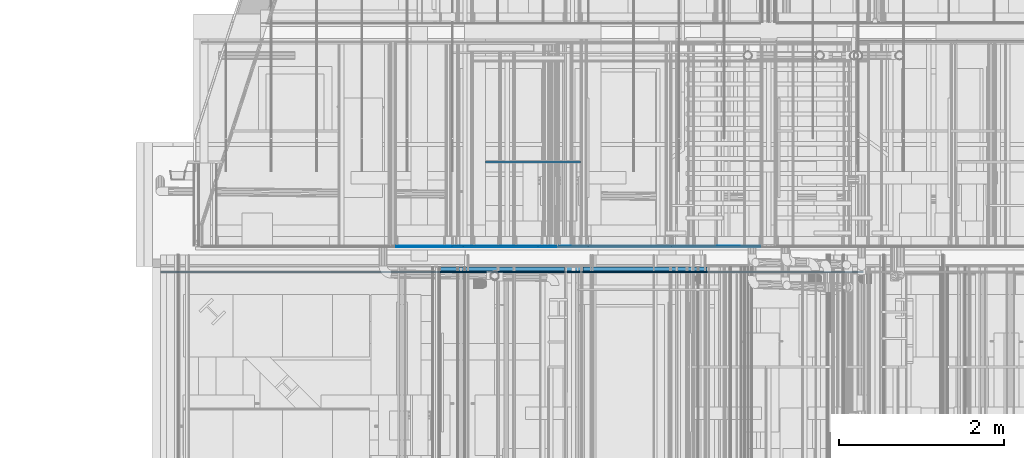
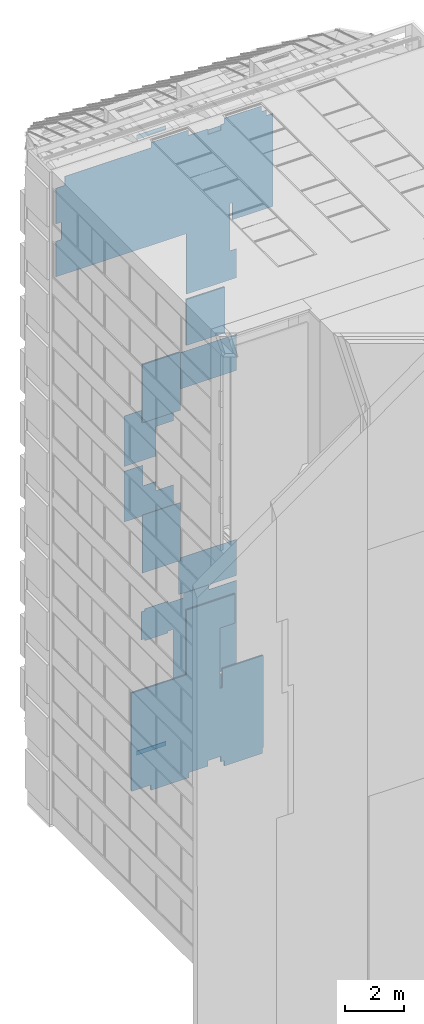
# One storey, part 264 of 583: 20 slabs.
"""IFC2X3 building model written with IfcOpenShell, lengths in metres."""

from ifc_helpers import new_model, entity, si_unit, converted_unit, derived_unit, money_unit, direction, frame, origin_with_axes, place, context, subcontext, project, spatial, faceted_brep, material, type_object, element, save


model = new_model("IFC2X3")

# Units and contexts
model_context = context("Model", 3, precision=1e-05, world=origin_with_axes(), true_north=direction((0.0, 1.0)))
body_context = subcontext(model_context, "Body", "Model", "MODEL_VIEW", scale=1.0)
ifc_project = project(units=[si_unit("LENGTHUNIT", "METRE"), si_unit("AREAUNIT", "SQUARE_METRE"), si_unit("VOLUMEUNIT", "CUBIC_METRE"), si_unit("ABSORBEDDOSEUNIT", "GRAY"), si_unit("AMOUNTOFSUBSTANCEUNIT", "MOLE"), si_unit("DOSEEQUIVALENTUNIT", "SIEVERT"), si_unit("ELECTRICCAPACITANCEUNIT", "FARAD"), si_unit("ELECTRICCHARGEUNIT", "COULOMB"), si_unit("ELECTRICCONDUCTANCEUNIT", "SIEMENS"), si_unit("ELECTRICCURRENTUNIT", "AMPERE"), si_unit("ELECTRICRESISTANCEUNIT", "OHM"), si_unit("ELECTRICVOLTAGEUNIT", "VOLT"), si_unit("ENERGYUNIT", "JOULE"), si_unit("FORCEUNIT", "NEWTON"), si_unit("FREQUENCYUNIT", "HERTZ"), si_unit("ILLUMINANCEUNIT", "LUX"), si_unit("INDUCTANCEUNIT", "HENRY"), si_unit("LUMINOUSFLUXUNIT", "LUMEN"), si_unit("LUMINOUSINTENSITYUNIT", "CANDELA"), si_unit("MAGNETICFLUXDENSITYUNIT", "TESLA"), si_unit("MAGNETICFLUXUNIT", "WEBER"), si_unit("MASSUNIT", "GRAM"), converted_unit("PLANEANGLEUNIT", "degree", entity("IfcReal", 0.0174532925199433), si_unit("PLANEANGLEUNIT", "RADIAN"), dimensions=[0, 0, 0, 0, 0, 0, 0]), si_unit("POWERUNIT", "WATT"), si_unit("PRESSUREUNIT", "PASCAL"), si_unit("RADIOACTIVITYUNIT", "BECQUEREL"), si_unit("SOLIDANGLEUNIT", "STERADIAN"), si_unit("THERMODYNAMICTEMPERATUREUNIT", "KELVIN"), si_unit("TIMEUNIT", "SECOND"), derived_unit("ACCELERATIONUNIT", [(si_unit("LENGTHUNIT", "METRE"), 1), (si_unit("TIMEUNIT", "SECOND"), -2)]), derived_unit("ANGULARVELOCITYUNIT", [(converted_unit("PLANEANGLEUNIT", "degree", entity("IfcReal", 0.0174532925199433), si_unit("PLANEANGLEUNIT", "RADIAN"), dimensions=[0, 0, 0, 0, 0, 0, 0]), 1), (si_unit("TIMEUNIT", "SECOND"), -1)]), derived_unit("CURVATUREUNIT", [(converted_unit("PLANEANGLEUNIT", "degree", entity("IfcReal", 0.0174532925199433), si_unit("PLANEANGLEUNIT", "RADIAN"), dimensions=[0, 0, 0, 0, 0, 0, 0]), 1), (si_unit("LENGTHUNIT", "METRE"), -1)]), derived_unit("DYNAMICVISCOSITYUNIT", [(si_unit("PRESSUREUNIT", "PASCAL"), 1), (si_unit("TIMEUNIT", "SECOND"), 1)]), derived_unit("HEATFLUXDENSITYUNIT", [(si_unit("POWERUNIT", "WATT"), 1), (si_unit("LENGTHUNIT", "METRE"), -2)]), derived_unit("HEATINGVALUEUNIT", [(si_unit("ENERGYUNIT", "JOULE"), 1), (si_unit("MASSUNIT", "GRAM"), -1)]), derived_unit("INTEGERCOUNTRATEUNIT", [(si_unit("TIMEUNIT", "SECOND"), -1)]), derived_unit("IONCONCENTRATIONUNIT", [(si_unit("MASSUNIT", "GRAM"), 1), (si_unit("VOLUMEUNIT", "CUBIC_METRE"), -1)]), derived_unit("ISOTHERMALMOISTURECAPACITYUNIT", [(si_unit("VOLUMEUNIT", "CUBIC_METRE"), 1), (si_unit("MASSUNIT", "GRAM"), -1)]), derived_unit("KINEMATICVISCOSITYUNIT", [(si_unit("AREAUNIT", "SQUARE_METRE"), 1), (si_unit("TIMEUNIT", "SECOND"), -1)]), derived_unit("LINEARFORCEUNIT", [(si_unit("FORCEUNIT", "NEWTON"), 1), (si_unit("LENGTHUNIT", "METRE"), -1)]), derived_unit("LINEARMOMENTUNIT", [(si_unit("FORCEUNIT", "NEWTON"), 1), (si_unit("LENGTHUNIT", "METRE"), -1)]), derived_unit("LINEARSTIFFNESSUNIT", [(si_unit("FORCEUNIT", "NEWTON"), 1), (si_unit("LENGTHUNIT", "METRE"), -1)]), derived_unit("LINEARVELOCITYUNIT", [(si_unit("LENGTHUNIT", "METRE"), 1), (si_unit("TIMEUNIT", "SECOND"), -1)]), derived_unit("LUMINOUSINTENSITYDISTRIBUTIONUNIT", [(si_unit("LUMINOUSINTENSITYUNIT", "CANDELA"), 1), (si_unit("LUMINOUSFLUXUNIT", "LUMEN"), -1)]), derived_unit("MASSDENSITYUNIT", [(si_unit("MASSUNIT", "GRAM"), 1), (si_unit("VOLUMEUNIT", "CUBIC_METRE"), -1)]), derived_unit("MASSFLOWRATEUNIT", [(si_unit("MASSUNIT", "GRAM"), 1), (si_unit("TIMEUNIT", "SECOND"), -1)]), derived_unit("MASSPERLENGTHUNIT", [(si_unit("MASSUNIT", "GRAM"), 1), (si_unit("LENGTHUNIT", "METRE"), -1)]), derived_unit("MODULUSOFELASTICITYUNIT", [(si_unit("FORCEUNIT", "NEWTON"), 1), (si_unit("AREAUNIT", "SQUARE_METRE"), -1)]), derived_unit("MODULUSOFLINEARSUBGRADEREACTIONUNIT", [(si_unit("FORCEUNIT", "NEWTON"), 1), (si_unit("LENGTHUNIT", "METRE"), -2)]), derived_unit("MODULUSOFROTATIONALSUBGRADEREACTIONUNIT", [(si_unit("FORCEUNIT", "NEWTON"), 1), (si_unit("LENGTHUNIT", "METRE"), 1)]), derived_unit("MODULUSOFSUBGRADEREACTIONUNIT", [(si_unit("FORCEUNIT", "NEWTON"), 1), (si_unit("VOLUMEUNIT", "CUBIC_METRE"), -1)]), derived_unit("MOISTUREDIFFUSIVITYUNIT", [(si_unit("VOLUMEUNIT", "CUBIC_METRE"), 1), (si_unit("TIMEUNIT", "SECOND"), -1)]), derived_unit("MOLECULARWEIGHTUNIT", [(si_unit("MASSUNIT", "GRAM"), 1), (si_unit("AMOUNTOFSUBSTANCEUNIT", "MOLE"), -1)]), derived_unit("PLANARFORCEUNIT", [(si_unit("FORCEUNIT", "NEWTON"), 1), (si_unit("LENGTHUNIT", "METRE"), -2)]), derived_unit("ROTATIONALFREQUENCYUNIT", [(si_unit("TIMEUNIT", "SECOND"), -1)]), derived_unit("ROTATIONALMASSUNIT", [(si_unit("MASSUNIT", "GRAM"), 1), (si_unit("LENGTHUNIT", "METRE"), 2)]), derived_unit("ROTATIONALSTIFFNESSUNIT", [(si_unit("FORCEUNIT", "NEWTON"), 1), (si_unit("LENGTHUNIT", "METRE"), 1), (converted_unit("PLANEANGLEUNIT", "degree", entity("IfcReal", 0.0174532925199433), si_unit("PLANEANGLEUNIT", "RADIAN"), dimensions=[0, 0, 0, 0, 0, 0, 0]), -1)]), derived_unit("SECTIONAREAINTEGRALUNIT", [(si_unit("LENGTHUNIT", "METRE"), 5)]), derived_unit("SECTIONMODULUSUNIT", [(si_unit("LENGTHUNIT", "METRE"), 3)]), derived_unit("SHEARMODULUSUNIT", [(si_unit("FORCEUNIT", "NEWTON"), 1), (si_unit("AREAUNIT", "SQUARE_METRE"), -1)]), derived_unit("SOUNDPOWERUNIT", [(si_unit("ENERGYUNIT", "JOULE"), 1), (si_unit("TIMEUNIT", "SECOND"), -1)]), derived_unit("SPECIFICHEATCAPACITYUNIT", [(si_unit("FORCEUNIT", "NEWTON"), 1), (si_unit("MASSUNIT", "GRAM"), -1), (si_unit("THERMODYNAMICTEMPERATUREUNIT", "KELVIN"), -1)]), derived_unit("TEMPERATUREGRADIENTUNIT", [(si_unit("THERMODYNAMICTEMPERATUREUNIT", "KELVIN"), 1), (si_unit("LENGTHUNIT", "METRE"), -1)]), derived_unit("THERMALADMITTANCEUNIT", [(si_unit("POWERUNIT", "WATT"), 1), (si_unit("AREAUNIT", "SQUARE_METRE"), -1), (si_unit("THERMODYNAMICTEMPERATUREUNIT", "KELVIN"), -1)]), derived_unit("THERMALCONDUCTANCEUNIT", [(si_unit("POWERUNIT", "WATT"), 1), (si_unit("LENGTHUNIT", "METRE"), -1), (si_unit("THERMODYNAMICTEMPERATUREUNIT", "KELVIN"), -1)]), derived_unit("THERMALEXPANSIONCOEFFICIENTUNIT", [(si_unit("THERMODYNAMICTEMPERATUREUNIT", "KELVIN"), -1)]), derived_unit("THERMALRESISTANCEUNIT", [(si_unit("AREAUNIT", "SQUARE_METRE"), 1), (si_unit("POWERUNIT", "WATT"), -1)]), derived_unit("THERMALTRANSMITTANCEUNIT", [(si_unit("POWERUNIT", "WATT"), 1), (si_unit("AREAUNIT", "SQUARE_METRE"), -1), (si_unit("THERMODYNAMICTEMPERATUREUNIT", "KELVIN"), -1)]), derived_unit("TORQUEUNIT", [(si_unit("FORCEUNIT", "NEWTON"), 1), (si_unit("LENGTHUNIT", "METRE"), 1)]), derived_unit("VAPORPERMEABILITYUNIT", [(si_unit("MASSUNIT", "GRAM"), 1), (si_unit("TIMEUNIT", "SECOND"), -1)]), derived_unit("VOLUMETRICFLOWRATEUNIT", [(si_unit("VOLUMEUNIT", "CUBIC_METRE"), 1), (si_unit("TIMEUNIT", "SECOND"), -1)]), derived_unit("WARPINGCONSTANTUNIT", [(si_unit("LENGTHUNIT", "METRE"), 6)]), derived_unit("WARPINGMOMENTUNIT", [(si_unit("FORCEUNIT", "NEWTON"), 1), (si_unit("LENGTHUNIT", "METRE"), 2)]), money_unit("GBP")], contexts=[model_context])

# Site, building, storey
site_placement = place(None, origin_with_axes())
site = spatial("IfcSite", under=ifc_project, at=site_placement, Name="Site", CompositionType="ELEMENT")
building_placement = place(site_placement, origin_with_axes())
building = spatial("IfcBuilding", under=site, at=building_placement, Name="Building01", CompositionType="ELEMENT")
storey_placement = place(building_placement, frame((0.0, 0.0, 20.78), z_axis=(0.0, 0.0, 1.0), x_axis=(1.0, 0.0, 0.0)))
storey = spatial("IfcBuildingStorey", under=building, at=storey_placement, Name="RL", CompositionType="ELEMENT", Elevation=20.78)

# Slabs
ifc_material_1 = material(Name="A_BSUK_CeilingSoffitFinishes_Suspended")
slab_type_1 = type_object("IfcSlabType", Name="A-FloorsSlabs A_BSUK_Slabs", PredefinedType="FLOOR")
placement = place(storey_placement, frame((0.0, 0.0, -20.78), z_axis=(0.0, 0.0, 1.0), x_axis=(1.0, 0.0, 0.0)))
element("IfcSlab", 1, at=placement, inside=storey, type_object=slab_type_1, material=ifc_material_1, Name="A-FloorsSlabs A_BSUK_Slabs", ObjectType="CompoundSlabLeaf", context=body_context, shape_type="Brep", body=[
    faceted_brep([(6.705, 14.658, 18.0), (6.705, 14.673, 18.0), (6.705, 14.673, 19.897661), (6.705, 14.658, 19.897661), (5.205, 14.658, 18.0), (5.205, 14.673, 18.0), (5.205, 14.658, 19.897661), (5.205, 14.673, 19.897661)], [[[0, 1, 2, 3]], [[4, 5, 1, 0]], [[6, 7, 5, 4]], [[3, 2, 7, 6]], [[1, 5, 7, 2]], [[3, 6, 4, 0]]]),
])
element("IfcSlab", 2, at=placement, inside=storey, type_object=slab_type_1, material=ifc_material_1, Name="A-FloorsSlabs A_BSUK_Slabs", ObjectType="CompoundSlabLeaf", context=body_context, shape_type="Brep", body=[
    faceted_brep([(4.98, 14.658, 9.192536), (4.98, 14.673, 9.192536), (4.98, 14.673, 11.592536), (4.98, 14.658, 11.592536), (3.48, 14.658, 9.192536), (3.48, 14.673, 9.192536), (3.48, 14.658, 11.592536), (3.48, 14.673, 11.592536), (4.259428, 14.658, 11.592536), (4.259428, 14.673, 11.592536)], [[[0, 1, 2, 3]], [[4, 5, 1, 0]], [[6, 7, 5, 4]], [[8, 9, 7, 6]], [[3, 2, 9, 8]], [[1, 5, 7, 9, 2]], [[3, 8, 6, 4, 0]]]),
])
element("IfcSlab", 3, at=placement, inside=storey, type_object=slab_type_1, material=ifc_material_1, Name="A-FloorsSlabs A_BSUK_Slabs", ObjectType="CompoundSlabLeaf", context=body_context, shape_type="Brep", body=[
    faceted_brep([(5.457147, 14.658, 20.122661), (5.457147, 14.673, 20.122661), (6.457147, 14.673, 20.122661), (6.457147, 14.658, 20.122661), (5.205, 14.658, 20.122661), (5.205, 14.673, 20.122661), (5.205, 14.658, 22.625), (5.205, 14.673, 22.625), (0.1, 14.658, 22.625), (0.1, 14.673, 22.625), (0.1, 14.658, 24.095), (0.1, 14.673, 24.095), (0.318, 14.658, 24.095), (0.318, 14.673, 24.095), (0.318, 14.658, 24.815), (0.318, 14.673, 24.815), (0.1, 14.658, 24.815), (0.1, 14.673, 24.815), (0.1, 14.658, 26.285), (0.1, 14.673, 26.285), (0.448, 14.658, 26.285), (0.448, 14.673, 26.285), (0.448, 14.658, 26.662), (0.448, 14.673, 26.662), (3.82218, 14.658, 26.662), (3.82218, 14.673, 26.662), (3.82218, 14.658, 26.88), (3.82218, 14.673, 26.88), (5.29218, 14.658, 26.88), (5.29218, 14.673, 26.88), (5.29218, 14.658, 26.662), (5.29218, 14.673, 26.662), (6.052, 14.658, 26.662), (6.052, 14.673, 26.662), (6.052, 14.658, 26.432), (6.052, 14.673, 26.432), (6.548, 14.658, 26.432), (6.548, 14.673, 26.432), (6.548, 14.658, 26.662), (6.548, 14.673, 26.662), (6.682326, 14.658, 26.662), (6.682326, 14.673, 26.662), (6.682326, 14.658, 26.88), (6.682326, 14.673, 26.88), (8.137326, 14.658, 26.88), (8.137326, 14.673, 26.88), (8.137326, 14.658, 26.646178), (8.137326, 14.673, 26.646178), (8.334548, 14.658, 26.646178), (8.334548, 14.673, 26.646178), (8.334548, 14.658, 26.417), (8.334548, 14.673, 26.417), (8.595, 14.658, 26.417), (8.595, 14.673, 26.417), (8.595, 14.658, 22.571661), (8.595, 14.673, 22.571661), (7.0, 14.658, 22.571661), (7.0, 14.673, 22.571661), (7.0, 14.658, 23.271529), (7.0, 14.673, 23.271529), (6.955, 14.658, 23.271529), (6.955, 14.673, 23.271529), (6.905, 14.658, 23.271529), (6.905, 14.673, 23.271529), (6.905, 14.658, 21.322661), (6.905, 14.673, 21.322661), (7.155, 14.658, 21.322661), (7.155, 14.673, 21.322661), (7.155, 14.658, 20.122661), (7.155, 14.673, 20.122661)], [[[0, 1, 2, 3]], [[4, 5, 1, 0]], [[6, 7, 5, 4]], [[8, 9, 7, 6]], [[10, 11, 9, 8]], [[12, 13, 11, 10]], [[14, 15, 13, 12]], [[16, 17, 15, 14]], [[18, 19, 17, 16]], [[20, 21, 19, 18]], [[22, 23, 21, 20]], [[24, 25, 23, 22]], [[26, 27, 25, 24]], [[28, 29, 27, 26]], [[30, 31, 29, 28]], [[32, 33, 31, 30]], [[34, 35, 33, 32]], [[36, 37, 35, 34]], [[38, 39, 37, 36]], [[40, 41, 39, 38]], [[42, 43, 41, 40]], [[44, 45, 43, 42]], [[46, 47, 45, 44]], [[48, 49, 47, 46]], [[50, 51, 49, 48]], [[52, 53, 51, 50]], [[54, 55, 53, 52]], [[56, 57, 55, 54]], [[58, 59, 57, 56]], [[60, 61, 59, 58]], [[62, 63, 61, 60]], [[64, 65, 63, 62]], [[66, 67, 65, 64]], [[68, 69, 67, 66]], [[3, 2, 69, 68]], [[1, 5, 7, 9, 11, 13, 15, 17, 19, 21, 23, 25, 27, 29, 31, 33, 35, 37, 39, 41, 43, 45, 47, 49, 51, 53, 55, 57, 59, 61, 63, 65, 67, 69, 2]], [[3, 68, 66, 64, 62, 60, 58, 56, 54, 52, 50, 48, 46, 44, 42, 40, 38, 36, 34, 32, 30, 28, 26, 24, 22, 20, 18, 16, 14, 12, 10, 8, 6, 4, 0]]]),
])
element("IfcSlab", 4, at=placement, inside=storey, type_object=slab_type_1, material=ifc_material_1, Name="A-FloorsSlabs A_BSUK_Slabs", ObjectType="CompoundSlabLeaf", context=body_context, shape_type="Brep", body=[
    faceted_brep([(4.98, 14.658, 15.4075), (4.98, 14.673, 15.4075), (4.98, 14.673, 17.8075), (4.98, 14.658, 17.8075), (4.259428, 14.658, 15.4075), (4.259428, 14.673, 15.4075), (3.48, 14.658, 15.4075), (3.48, 14.673, 15.4075), (3.48, 14.658, 17.8075), (3.48, 14.673, 17.8075)], [[[0, 1, 2, 3]], [[4, 5, 1, 0]], [[6, 7, 5, 4]], [[8, 9, 7, 6]], [[3, 2, 9, 8]], [[1, 5, 7, 9, 2]], [[3, 8, 6, 4, 0]]]),
])
element("IfcSlab", 5, at=placement, inside=storey, type_object=slab_type_1, material=ifc_material_1, Name="A-FloorsSlabs A_BSUK_Slabs", ObjectType="CompoundSlabLeaf", context=body_context, shape_type="Brep", body=[
    faceted_brep([(6.466475, 14.658, 7.064669), (6.466475, 14.673, 7.064669), (5.466475, 14.673, 7.064669), (5.466475, 14.658, 7.064669), (7.111475, 14.658, 7.064669), (7.111475, 14.673, 7.064669), (7.111475, 14.658, 5.864669), (7.111475, 14.673, 5.864669), (6.511475, 14.658, 5.864669), (6.511475, 14.673, 5.864669), (6.511475, 14.658, 5.771088), (6.511475, 14.673, 5.771088), (6.511475, 14.658, 4.937088), (6.511475, 14.673, 4.937088), (6.511475, 14.658, 3.37073), (6.511475, 14.673, 3.37073), (6.606475, 14.658, 3.37073), (6.606475, 14.673, 3.37073), (6.606475, 14.658, 4.14573), (6.606475, 14.673, 4.14573), (8.21067, 14.658, 4.14573), (8.21067, 14.673, 4.14573), (8.21067, 14.658, 0.333), (8.21067, 14.673, 0.333), (8.17, 14.658, 0.333), (8.17, 14.673, 0.333), (8.17, 14.658, 0.1), (8.17, 14.673, 0.1), (6.69218, 14.658, 0.1), (6.69218, 14.673, 0.1), (6.69218, 14.658, 0.318), (6.69218, 14.673, 0.318), (6.548, 14.658, 0.318), (6.548, 14.673, 0.318), (6.548, 14.658, 0.548), (6.548, 14.673, 0.548), (6.052, 14.658, 0.548), (6.052, 14.673, 0.548), (6.052, 14.658, 0.318), (6.052, 14.673, 0.318), (5.315, 14.658, 0.318), (5.315, 14.673, 0.318), (5.315, 14.658, 0.1), (5.315, 14.673, 0.1), (3.82218, 14.658, 0.1), (3.82218, 14.673, 0.1), (3.82218, 14.658, 0.318), (3.82218, 14.673, 0.318), (3.065286, 14.658, 0.318), (3.065286, 14.673, 0.318), (3.065286, 14.658, 4.385), (3.065286, 14.673, 4.385), (5.205, 14.658, 4.385), (5.205, 14.673, 4.385), (5.205, 14.658, 7.064669), (5.205, 14.673, 7.064669)], [[[0, 1, 2, 3]], [[4, 5, 1, 0]], [[6, 7, 5, 4]], [[8, 9, 7, 6]], [[10, 11, 9, 8]], [[12, 13, 11, 10]], [[14, 15, 13, 12]], [[16, 17, 15, 14]], [[18, 19, 17, 16]], [[20, 21, 19, 18]], [[22, 23, 21, 20]], [[24, 25, 23, 22]], [[26, 27, 25, 24]], [[28, 29, 27, 26]], [[30, 31, 29, 28]], [[32, 33, 31, 30]], [[34, 35, 33, 32]], [[36, 37, 35, 34]], [[38, 39, 37, 36]], [[40, 41, 39, 38]], [[42, 43, 41, 40]], [[44, 45, 43, 42]], [[46, 47, 45, 44]], [[48, 49, 47, 46]], [[50, 51, 49, 48]], [[52, 53, 51, 50]], [[54, 55, 53, 52]], [[3, 2, 55, 54]], [[1, 5, 7, 9, 11, 13, 15, 17, 19, 21, 23, 25, 27, 29, 31, 33, 35, 37, 39, 41, 43, 45, 47, 49, 51, 53, 55, 2]], [[3, 54, 52, 50, 48, 46, 44, 42, 40, 38, 36, 34, 32, 30, 28, 26, 24, 22, 20, 18, 16, 14, 12, 10, 8, 6, 4, 0]]]),
])
ifc_material_2 = material(Name="A_BSUK_ExpandedPolystyreneBoards")
element("IfcSlab", 6, at=placement, inside=storey, type_object=slab_type_1, material=ifc_material_2, Name="A-FloorsSlabs A_BSUK_Slabs", ObjectType="CompoundSlabLeaf", context=body_context, shape_type="Brep", body=[
    faceted_brep([(6.094976, 14.965, 3.119976), (6.094976, 14.968, 3.119976), (6.199939, 14.968, 3.119976), (6.199939, 14.965, 3.119976), (6.094976, 14.965, 3.039976), (6.094976, 14.968, 3.039976), (5.344976, 14.965, 3.039976), (5.344976, 14.968, 3.039976), (5.344976, 14.965, 3.119976), (5.344976, 14.968, 3.119976), (4.859939, 14.965, 3.119976), (4.859939, 14.968, 3.119976), (4.859939, 14.965, 3.219976), (4.859939, 14.968, 3.219976), (4.779939, 14.965, 3.219976), (4.779939, 14.968, 3.219976), (4.779939, 14.965, 4.119976), (4.779939, 14.968, 4.119976), (4.859939, 14.965, 4.119976), (4.859939, 14.968, 4.119976), (4.859939, 14.965, 6.200098), (4.859939, 14.968, 6.200098), (4.659939, 14.965, 6.200098), (4.659939, 14.968, 6.200098), (4.659939, 14.965, 6.120098), (4.659939, 14.968, 6.120098), (3.759939, 14.965, 6.120098), (3.759939, 14.968, 6.120098), (3.759939, 14.965, 6.200098), (3.759939, 14.968, 6.200098), (3.619939, 14.965, 6.200098), (3.619939, 14.968, 6.200098), (3.619939, 14.965, 7.36), (3.619939, 14.968, 7.36), (3.759939, 14.965, 7.36), (3.759939, 14.968, 7.36), (3.759939, 14.965, 7.439975), (3.759939, 14.968, 7.439975), (4.659939, 14.965, 7.439994), (4.659939, 14.968, 7.439994), (4.659939, 14.965, 7.36), (4.659939, 14.968, 7.36), (5.272, 14.965, 7.36), (5.272, 14.968, 7.36), (5.272, 14.965, 7.56), (5.272, 14.968, 7.56), (6.272, 14.965, 7.56), (6.272, 14.968, 7.56), (6.272, 14.965, 7.36), (6.272, 14.968, 7.36), (7.349939, 14.965, 7.36), (7.349939, 14.968, 7.36), (7.349939, 14.965, 7.195111), (7.349939, 14.968, 7.195111), (7.349939, 14.965, 3.915111), (7.349939, 14.968, 3.915111), (7.349939, 14.965, 3.795111), (7.349939, 14.968, 3.795111), (6.199939, 14.965, 3.795111), (6.199939, 14.968, 3.795111)], [[[0, 1, 2, 3]], [[4, 5, 1, 0]], [[6, 7, 5, 4]], [[8, 9, 7, 6]], [[10, 11, 9, 8]], [[12, 13, 11, 10]], [[14, 15, 13, 12]], [[16, 17, 15, 14]], [[18, 19, 17, 16]], [[20, 21, 19, 18]], [[22, 23, 21, 20]], [[24, 25, 23, 22]], [[26, 27, 25, 24]], [[28, 29, 27, 26]], [[30, 31, 29, 28]], [[32, 33, 31, 30]], [[34, 35, 33, 32]], [[36, 37, 35, 34]], [[38, 39, 37, 36]], [[40, 41, 39, 38]], [[42, 43, 41, 40]], [[44, 45, 43, 42]], [[46, 47, 45, 44]], [[48, 49, 47, 46]], [[50, 51, 49, 48]], [[52, 53, 51, 50]], [[54, 55, 53, 52]], [[56, 57, 55, 54]], [[58, 59, 57, 56]], [[3, 2, 59, 58]], [[1, 5, 7, 9, 11, 13, 15, 17, 19, 21, 23, 25, 27, 29, 31, 33, 35, 37, 39, 41, 43, 45, 47, 49, 51, 53, 55, 57, 59, 2]], [[3, 58, 56, 54, 52, 50, 48, 46, 44, 42, 40, 38, 36, 34, 32, 30, 28, 26, 24, 22, 20, 18, 16, 14, 12, 10, 8, 6, 4, 0]]]),
])
element("IfcSlab", 7, at=placement, inside=storey, type_object=slab_type_1, material=ifc_material_2, Name="A-FloorsSlabs A_BSUK_Slabs", ObjectType="CompoundSlabLeaf", context=body_context, shape_type="Brep", body=[
    faceted_brep([(2.949761, 14.965, 13.4), (2.949761, 14.968, 13.4), (2.949761, 14.968, 11.31), (2.949761, 14.965, 11.31), (3.68, 14.965, 13.4), (3.68, 14.968, 13.4), (3.68, 14.965, 12.55), (3.68, 14.968, 12.55), (4.189428, 14.965, 12.55), (4.189428, 14.968, 12.55), (4.189428, 14.965, 12.175), (4.189428, 14.968, 12.175), (4.88, 14.965, 12.175), (4.88, 14.968, 12.175), (4.88, 14.965, 11.31), (4.88, 14.968, 11.31)], [[[0, 1, 2, 3]], [[4, 5, 1, 0]], [[6, 7, 5, 4]], [[8, 9, 7, 6]], [[10, 11, 9, 8]], [[12, 13, 11, 10]], [[14, 15, 13, 12]], [[3, 2, 15, 14]], [[1, 5, 7, 9, 11, 13, 15, 2]], [[3, 14, 12, 10, 8, 6, 4, 0]]]),
])
element("IfcSlab", 8, at=placement, inside=storey, type_object=slab_type_1, material=ifc_material_2, Name="A-FloorsSlabs A_BSUK_Slabs", ObjectType="CompoundSlabLeaf", context=body_context, shape_type="Brep", body=[
    faceted_brep([(2.949761, 14.965, 13.6), (2.949761, 14.968, 13.6), (4.189428, 14.968, 13.6), (4.189428, 14.965, 13.6), (2.949761, 14.965, 15.69), (2.949761, 14.968, 15.69), (4.88, 14.965, 15.69), (4.88, 14.968, 15.69), (4.88, 14.965, 14.825), (4.88, 14.968, 14.825), (4.189428, 14.965, 14.825), (4.189428, 14.968, 14.825)], [[[0, 1, 2, 3]], [[4, 5, 1, 0]], [[6, 7, 5, 4]], [[8, 9, 7, 6]], [[10, 11, 9, 8]], [[3, 2, 11, 10]], [[1, 5, 7, 9, 11, 2]], [[3, 10, 8, 6, 4, 0]]]),
])
ifc_material_3 = material(Name="A_BSUK_Timber_Miscellaneous")
element("IfcSlab", 9, at=placement, inside=storey, type_object=slab_type_1, material=ifc_material_3, Name="A-FloorsSlabs A_BSUK_Slabs", ObjectType="CompoundSlabLeaf", context=body_context, shape_type="Brep", body=[
    faceted_brep([(4.024964, 15.98, 26.304661), (4.024964, 16.005, 26.304661), (4.024964, 16.005, 26.130059), (4.024964, 15.98, 26.130059), (5.174964, 15.98, 26.304661), (5.174964, 16.005, 26.304661), (5.174964, 15.98, 26.130061), (5.174964, 16.005, 26.130061)], [[[0, 1, 2, 3]], [[4, 5, 1, 0]], [[6, 7, 5, 4]], [[3, 2, 7, 6]], [[1, 5, 7, 2]], [[3, 6, 4, 0]]]),
])
element("IfcSlab", 10, at=placement, inside=storey, type_object=slab_type_1, material=ifc_material_3, Name="A-FloorsSlabs A_BSUK_Slabs", ObjectType="CompoundSlabLeaf", context=body_context, shape_type="Brep", body=[
    faceted_brep([(4.024964, 15.98, 0.849939), (4.024964, 16.005, 0.849939), (4.024915, 16.005, 0.675339), (4.024915, 15.98, 0.675339), (5.174964, 15.98, 0.849939), (5.174964, 16.005, 0.849939), (5.174964, 15.98, 0.675339), (5.174964, 16.005, 0.675339)], [[[0, 1, 2, 3]], [[4, 5, 1, 0]], [[6, 7, 5, 4]], [[3, 2, 7, 6]], [[1, 5, 7, 2]], [[3, 6, 4, 0]]]),
])
ifc_material_4 = material(Name="A_BSUK_Ceramic_FloorTiles")
slab_type_2 = type_object("IfcSlabType", Name="A-Finishes A_BSUK_Ceramic_FloorTiles", PredefinedType="FLOOR")
element("IfcSlab", 11, at=placement, inside=storey, type_object=slab_type_2, material=ifc_material_4, Name="A-Finishes A_BSUK_Ceramic_FloorTiles", ObjectType="CompoundSlabLeaf", context=body_context, shape_type="Brep", body=[
    faceted_brep([(7.284939, 14.968, 3.715111), (7.284939, 14.98, 3.715111), (6.279939, 14.98, 3.715111), (6.279939, 14.968, 3.715111), (7.349939, 14.968, 3.715111), (7.349939, 14.98, 3.715111), (7.349939, 14.968, 0.6038), (7.349939, 14.98, 0.6038), (6.874964, 14.968, 0.6038), (6.874964, 14.98, 0.6038), (5.254976, 14.968, 0.6038), (5.254976, 14.98, 0.6038), (5.254976, 14.968, 3.039976), (5.254976, 14.98, 3.039976), (6.279939, 14.968, 3.039976), (6.279939, 14.98, 3.039976)], [[[0, 1, 2, 3]], [[4, 5, 1, 0]], [[6, 7, 5, 4]], [[8, 9, 7, 6]], [[10, 11, 9, 8]], [[12, 13, 11, 10]], [[14, 15, 13, 12]], [[3, 2, 15, 14]], [[1, 5, 7, 9, 11, 13, 15, 2]], [[3, 14, 12, 10, 8, 6, 4, 0]]]),
])
element("IfcSlab", 12, at=placement, inside=storey, type_object=slab_type_2, material=ifc_material_4, Name="A-Finishes A_BSUK_Ceramic_FloorTiles", ObjectType="CompoundSlabLeaf", context=body_context, shape_type="Brep", body=[
    faceted_brep([(7.349915, 14.968, 23.258821), (7.349915, 14.98, 23.258821), (7.349915, 14.98, 26.3762), (7.349915, 14.968, 26.3762), (6.550085, 14.968, 23.258821), (6.550085, 14.98, 23.258821), (6.550085, 14.968, 23.79), (6.550085, 14.98, 23.79), (5.254915, 14.968, 23.79), (5.254915, 14.98, 23.79), (5.254915, 14.968, 26.3762), (5.254915, 14.98, 26.3762), (6.874964, 14.968, 26.3762), (6.874964, 14.98, 26.3762)], [[[0, 1, 2, 3]], [[4, 5, 1, 0]], [[6, 7, 5, 4]], [[8, 9, 7, 6]], [[10, 11, 9, 8]], [[12, 13, 11, 10]], [[3, 2, 13, 12]], [[1, 5, 7, 9, 11, 13, 2]], [[3, 12, 10, 8, 6, 4, 0]]]),
])
slab_type_3 = type_object("IfcSlabType", Name="A-FloorsSlabs A_BSUK_ExpandedPolystyreneBoards", PredefinedType="FLOOR")
element("IfcSlab", 13, at=placement, inside=storey, type_object=slab_type_3, material=ifc_material_2, Name="A-FloorsSlabs A_BSUK_ExpandedPolystyreneBoards", ObjectType="CompoundSlabLeaf", context=body_context, shape_type="Brep", body=[
    faceted_brep([(6.705, 14.673, 18.0), (6.705, 14.723, 18.0), (6.705, 14.723, 19.897661), (6.705, 14.673, 19.897661), (5.205, 14.673, 18.0), (5.205, 14.723, 18.0), (5.205, 14.673, 19.897661), (5.205, 14.723, 19.897661)], [[[0, 1, 2, 3]], [[4, 5, 1, 0]], [[6, 7, 5, 4]], [[3, 2, 7, 6]], [[1, 5, 7, 2]], [[3, 6, 4, 0]]]),
])
element("IfcSlab", 14, at=placement, inside=storey, type_object=slab_type_3, material=ifc_material_2, Name="A-FloorsSlabs A_BSUK_ExpandedPolystyreneBoards", ObjectType="CompoundSlabLeaf", context=body_context, shape_type="Brep", body=[
    faceted_brep([(4.98, 14.673, 15.4075), (4.98, 14.723, 15.4075), (4.98, 14.723, 17.8075), (4.98, 14.673, 17.8075), (4.259428, 14.673, 15.4075), (4.259428, 14.723, 15.4075), (3.48, 14.673, 15.4075), (3.48, 14.723, 15.4075), (3.48, 14.673, 17.8075), (3.48, 14.723, 17.8075)], [[[0, 1, 2, 3]], [[4, 5, 1, 0]], [[6, 7, 5, 4]], [[8, 9, 7, 6]], [[3, 2, 9, 8]], [[1, 5, 7, 9, 2]], [[3, 8, 6, 4, 0]]]),
])
element("IfcSlab", 15, at=placement, inside=storey, type_object=slab_type_3, material=ifc_material_2, Name="A-FloorsSlabs A_BSUK_ExpandedPolystyreneBoards", ObjectType="CompoundSlabLeaf", context=body_context, shape_type="Brep", body=[
    faceted_brep([(6.466475, 14.673, 7.064669), (6.466475, 14.723, 7.064669), (5.466475, 14.723, 7.064669), (5.466475, 14.673, 7.064669), (7.111475, 14.673, 7.064669), (7.111475, 14.723, 7.064669), (7.111475, 14.673, 5.864669), (7.111475, 14.723, 5.864669), (6.511475, 14.673, 5.864669), (6.511475, 14.723, 5.864669), (6.511475, 14.673, 5.771088), (6.511475, 14.723, 5.771088), (6.511475, 14.673, 4.937088), (6.511475, 14.723, 4.937088), (6.511475, 14.673, 3.37073), (6.511475, 14.723, 3.37073), (6.606475, 14.673, 3.37073), (6.606475, 14.723, 3.37073), (6.606475, 14.673, 4.14573), (6.606475, 14.723, 4.14573), (8.21067, 14.673, 4.14573), (8.21067, 14.723, 4.14573), (8.21067, 14.673, 0.333), (8.21067, 14.723, 0.333), (8.17, 14.673, 0.333), (8.17, 14.723, 0.333), (8.17, 14.673, 0.1), (8.17, 14.723, 0.1), (6.69218, 14.673, 0.1), (6.69218, 14.723, 0.1), (6.69218, 14.673, 0.318), (6.69218, 14.723, 0.318), (6.548, 14.673, 0.318), (6.548, 14.723, 0.318), (6.548, 14.673, 0.548), (6.548, 14.723, 0.548), (6.052, 14.673, 0.548), (6.052, 14.723, 0.548), (6.052, 14.673, 0.318), (6.052, 14.723, 0.318), (5.315, 14.673, 0.318), (5.315, 14.723, 0.318), (5.315, 14.673, 0.1), (5.315, 14.723, 0.1), (3.82218, 14.673, 0.1), (3.82218, 14.723, 0.1), (3.82218, 14.673, 0.318), (3.82218, 14.723, 0.318), (3.065286, 14.673, 0.318), (3.065286, 14.723, 0.318), (3.065286, 14.673, 4.385), (3.065286, 14.723, 4.385), (5.205, 14.673, 4.385), (5.205, 14.723, 4.385), (5.205, 14.673, 7.064669), (5.205, 14.723, 7.064669)], [[[0, 1, 2, 3]], [[4, 5, 1, 0]], [[6, 7, 5, 4]], [[8, 9, 7, 6]], [[10, 11, 9, 8]], [[12, 13, 11, 10]], [[14, 15, 13, 12]], [[16, 17, 15, 14]], [[18, 19, 17, 16]], [[20, 21, 19, 18]], [[22, 23, 21, 20]], [[24, 25, 23, 22]], [[26, 27, 25, 24]], [[28, 29, 27, 26]], [[30, 31, 29, 28]], [[32, 33, 31, 30]], [[34, 35, 33, 32]], [[36, 37, 35, 34]], [[38, 39, 37, 36]], [[40, 41, 39, 38]], [[42, 43, 41, 40]], [[44, 45, 43, 42]], [[46, 47, 45, 44]], [[48, 49, 47, 46]], [[50, 51, 49, 48]], [[52, 53, 51, 50]], [[54, 55, 53, 52]], [[3, 2, 55, 54]], [[1, 5, 7, 9, 11, 13, 15, 17, 19, 21, 23, 25, 27, 29, 31, 33, 35, 37, 39, 41, 43, 45, 47, 49, 51, 53, 55, 2]], [[3, 54, 52, 50, 48, 46, 44, 42, 40, 38, 36, 34, 32, 30, 28, 26, 24, 22, 20, 18, 16, 14, 12, 10, 8, 6, 4, 0]]]),
])
ifc_material_5 = material(Name="A_BSUK_Carpet-Pile")
slab_type_4 = type_object("IfcSlabType", Name="A-Finishes A_BSUK_Carpet-Pile", PredefinedType="FLOOR")
element("IfcSlab", 16, at=placement, inside=storey, type_object=slab_type_4, material=ifc_material_5, Name="A-Finishes A_BSUK_Carpet-Pile", ObjectType="CompoundSlabLeaf", context=body_context, shape_type="Brep", body=[
    faceted_brep([(5.08, 14.968, 7.56), (5.08, 14.98, 7.56), (7.349939, 14.98, 7.56), (7.349939, 14.968, 7.56), (5.08, 14.968, 9.06), (5.08, 14.98, 9.06), (7.349939, 14.968, 9.06), (7.349939, 14.98, 9.06)], [[[0, 1, 2, 3]], [[4, 5, 1, 0]], [[6, 7, 5, 4]], [[3, 2, 7, 6]], [[1, 5, 7, 2]], [[3, 6, 4, 0]]]),
])
element("IfcSlab", 17, at=placement, inside=storey, type_object=slab_type_4, material=ifc_material_5, Name="A-Finishes A_BSUK_Carpet-Pile", ObjectType="CompoundSlabLeaf", context=body_context, shape_type="Brep", body=[
    faceted_brep([(7.349915, 14.968, 16.03844), (7.349915, 14.98, 16.03844), (7.349915, 14.98, 17.53844), (7.349915, 14.968, 17.53844), (4.917, 14.968, 16.03844), (4.917, 14.98, 16.03844), (4.917, 14.968, 17.53844), (4.917, 14.98, 17.53844)], [[[0, 1, 2, 3]], [[4, 5, 1, 0]], [[6, 7, 5, 4]], [[3, 2, 7, 6]], [[1, 5, 7, 2]], [[3, 6, 4, 0]]]),
])
element("IfcSlab", 18, at=placement, inside=storey, type_object=slab_type_4, material=ifc_material_5, Name="A-Finishes A_BSUK_Carpet-Pile", ObjectType="CompoundSlabLeaf", context=body_context, shape_type="Brep", body=[
    faceted_brep([(2.949761, 14.968, 13.4), (2.949761, 14.98, 13.4), (2.949761, 14.98, 11.31), (2.949761, 14.968, 11.31), (3.68, 14.968, 13.4), (3.68, 14.98, 13.4), (3.68, 14.968, 12.55), (3.68, 14.98, 12.55), (4.189428, 14.968, 12.55), (4.189428, 14.98, 12.55), (4.189428, 14.968, 12.175), (4.189428, 14.98, 12.175), (4.88, 14.968, 12.175), (4.88, 14.98, 12.175), (4.88, 14.968, 11.31), (4.88, 14.98, 11.31)], [[[0, 1, 2, 3]], [[4, 5, 1, 0]], [[6, 7, 5, 4]], [[8, 9, 7, 6]], [[10, 11, 9, 8]], [[12, 13, 11, 10]], [[14, 15, 13, 12]], [[3, 2, 15, 14]], [[1, 5, 7, 9, 11, 13, 15, 2]], [[3, 14, 12, 10, 8, 6, 4, 0]]]),
])
element("IfcSlab", 19, at=placement, inside=storey, type_object=slab_type_4, material=ifc_material_5, Name="A-Finishes A_BSUK_Carpet-Pile", ObjectType="CompoundSlabLeaf", context=body_context, shape_type="Brep", body=[
    faceted_brep([(2.949761, 14.968, 13.6), (2.949761, 14.98, 13.6), (4.189428, 14.98, 13.6), (4.189428, 14.968, 13.6), (2.949761, 14.968, 15.69), (2.949761, 14.98, 15.69), (4.88, 14.968, 15.69), (4.88, 14.98, 15.69), (4.88, 14.968, 14.825), (4.88, 14.98, 14.825), (4.189428, 14.968, 14.825), (4.189428, 14.98, 14.825)], [[[0, 1, 2, 3]], [[4, 5, 1, 0]], [[6, 7, 5, 4]], [[8, 9, 7, 6]], [[10, 11, 9, 8]], [[3, 2, 11, 10]], [[1, 5, 7, 9, 11, 2]], [[3, 10, 8, 6, 4, 0]]]),
])
ifc_material_6 = material(Name="A_BSUK_InternalFinishes_FloorScreed")
slab_type_5 = type_object("IfcSlabType", Name="A-FloorsSlabs A_BSUK_InternalFinishes_FloorScreed", PredefinedType="FLOOR")
element("IfcSlab", 20, at=placement, inside=storey, type_object=slab_type_5, material=ifc_material_6, Name="A-FloorsSlabs A_BSUK_InternalFinishes_FloorScreed", ObjectType="CompoundSlabLeaf", context=body_context, shape_type="Brep", body=[
    faceted_brep([(6.094976, 14.968, 3.119976), (6.094976, 14.98, 3.119976), (6.199939, 14.98, 3.119976), (6.199939, 14.968, 3.119976), (6.094976, 14.968, 3.039976), (6.094976, 14.98, 3.039976), (5.344976, 14.968, 3.039976), (5.344976, 14.98, 3.039976), (5.344976, 14.968, 3.119976), (5.344976, 14.98, 3.119976), (4.859939, 14.968, 3.119976), (4.859939, 14.98, 3.119976), (4.859939, 14.968, 3.219976), (4.859939, 14.98, 3.219976), (4.779939, 14.968, 3.219976), (4.779939, 14.98, 3.219976), (4.779939, 14.968, 4.119976), (4.779939, 14.98, 4.119976), (4.859939, 14.968, 4.119976), (4.859939, 14.98, 4.119976), (4.859939, 14.968, 6.200098), (4.859939, 14.98, 6.200098), (4.659939, 14.968, 6.200098), (4.659939, 14.98, 6.200098), (4.659939, 14.968, 6.120098), (4.659939, 14.98, 6.120098), (3.759939, 14.968, 6.120098), (3.759939, 14.98, 6.120098), (3.759939, 14.968, 6.200098), (3.759939, 14.98, 6.200098), (3.619939, 14.968, 6.200098), (3.619939, 14.98, 6.200098), (3.619939, 14.968, 7.36), (3.619939, 14.98, 7.36), (3.759939, 14.968, 7.36), (3.759939, 14.98, 7.36), (3.759939, 14.968, 7.439975), (3.759939, 14.98, 7.439975), (4.659939, 14.968, 7.439994), (4.659939, 14.98, 7.439994), (4.659939, 14.968, 7.36), (4.659939, 14.98, 7.36), (5.272, 14.968, 7.36), (5.272, 14.98, 7.36), (5.272, 14.968, 7.56), (5.272, 14.98, 7.56), (6.272, 14.968, 7.56), (6.272, 14.98, 7.56), (6.272, 14.968, 7.36), (6.272, 14.98, 7.36), (7.349939, 14.968, 7.36), (7.349939, 14.98, 7.36), (7.349939, 14.968, 7.195111), (7.349939, 14.98, 7.195111), (7.349939, 14.968, 3.915111), (7.349939, 14.98, 3.915111), (7.349939, 14.968, 3.795111), (7.349939, 14.98, 3.795111), (6.199939, 14.968, 3.795111), (6.199939, 14.98, 3.795111)], [[[0, 1, 2, 3]], [[4, 5, 1, 0]], [[6, 7, 5, 4]], [[8, 9, 7, 6]], [[10, 11, 9, 8]], [[12, 13, 11, 10]], [[14, 15, 13, 12]], [[16, 17, 15, 14]], [[18, 19, 17, 16]], [[20, 21, 19, 18]], [[22, 23, 21, 20]], [[24, 25, 23, 22]], [[26, 27, 25, 24]], [[28, 29, 27, 26]], [[30, 31, 29, 28]], [[32, 33, 31, 30]], [[34, 35, 33, 32]], [[36, 37, 35, 34]], [[38, 39, 37, 36]], [[40, 41, 39, 38]], [[42, 43, 41, 40]], [[44, 45, 43, 42]], [[46, 47, 45, 44]], [[48, 49, 47, 46]], [[50, 51, 49, 48]], [[52, 53, 51, 50]], [[54, 55, 53, 52]], [[56, 57, 55, 54]], [[58, 59, 57, 56]], [[3, 2, 59, 58]], [[1, 5, 7, 9, 11, 13, 15, 17, 19, 21, 23, 25, 27, 29, 31, 33, 35, 37, 39, 41, 43, 45, 47, 49, 51, 53, 55, 57, 59, 2]], [[3, 58, 56, 54, 52, 50, 48, 46, 44, 42, 40, 38, 36, 34, 32, 30, 28, 26, 24, 22, 20, 18, 16, 14, 12, 10, 8, 6, 4, 0]]]),
])

save(model, "model.ifc")
